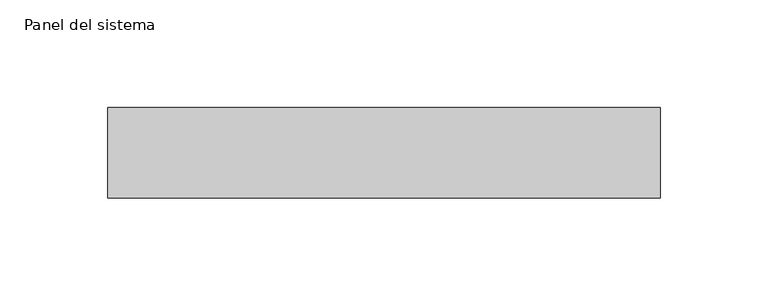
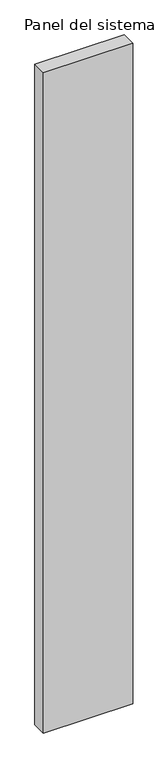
"""IFC4 building model written with IfcOpenShell, lengths in millimetres: plate geometry, Panel del sistema : HIANSA - CHAPA PERFILADA CUBIERTA - MT42 Vert."""

import ifcopenshell
import ifcopenshell.guid

model = None  # the IFC model being written
_history = None  # IfcOwnerHistory: only IFC2X3 demands one
_inside = {}  # id of a spatial element -> (the spatial element, [elements in it])
_under = {}  # id of a project, library or spatial element -> (it, [spatial elements below it])
_declared = {}  # id of a project -> (the project, [libraries it declares])
_typed = {}  # id of a type object -> (the type object, [elements of that type])
_made_of = {}  # id of a material, layer set ... -> (it, [elements and type objects made of it])


def new_model(schema):
    """Start an empty IFC model of exactly this schema.

    Asked for "IFC4X3", IfcOpenShell would pick the latest addendum, in which some entities
    have other attributes; the version numbers below select the first issue.
    IFC2X3 requires an IfcOwnerHistory on every rooted entity: one is made here for all.
    """
    global model, _history
    if schema == "IFC4X3":
        model = ifcopenshell.file(schema_version=(4, 3, 0, 0))
    else:
        model = ifcopenshell.file(schema=schema)
    _inside.clear()
    _under.clear()
    _declared.clear()
    _typed.clear()
    _made_of.clear()
    _history = None
    if model.schema == "IFC2X3":
        org = make("IfcOrganization", Name="unknown")
        user = make(
            "IfcPersonAndOrganization",
            ThePerson=make("IfcPerson", FamilyName="unknown"),
            TheOrganization=org,
        )
        app = make(
            "IfcApplication",
            ApplicationDeveloper=org,
            Version="unknown",
            ApplicationFullName="unknown",
            ApplicationIdentifier="unknown",
        )
        _history = make(
            "IfcOwnerHistory",
            OwningUser=user,
            OwningApplication=app,
            ChangeAction="ADDED",
            CreationDate=0,
        )
    return model


def make(cls, **values):
    """One entity of the class cls with the attributes given. An attribute that is None is left unset."""
    return model.create_entity(
        cls, **{name: value for name, value in values.items() if value is not None}
    )


def rooted(cls, **values):
    """An entity with a GlobalId (a new one), such as an element, a storey or a relation."""
    return make(cls, GlobalId=ifcopenshell.guid.new(), OwnerHistory=_history, **values)


def si_unit(unit_type, name, prefix=None):
    """IfcSIUnit, for example si_unit("LENGTHUNIT", "METRE", prefix="MILLI")."""
    return make("IfcSIUnit", UnitType=unit_type, Prefix=prefix, Name=name)


def assignment(units):
    """IfcUnitAssignment: the units of a project."""
    return None if units is None else make("IfcUnitAssignment", Units=units)


def point(xyz):
    """IfcCartesianPoint."""
    return None if xyz is None else make("IfcCartesianPoint", Coordinates=xyz)


def direction(xyz):
    """IfcDirection."""
    return None if xyz is None else make("IfcDirection", DirectionRatios=xyz)


def frame(location, z_axis=None, x_axis=None):
    """IfcAxis2Placement3D, a coordinate frame: its origin and axes. An axis left out is left unset."""
    return make(
        "IfcAxis2Placement3D",
        Location=point(location),
        Axis=direction(z_axis),
        RefDirection=direction(x_axis),
    )


def origin():
    """The frame at (0, 0, 0) with its axes left unset."""
    return frame((0.0, 0.0, 0.0))


def origin_with_axes():
    """The frame at (0, 0, 0) with the z axis (0, 0, 1) and the x axis (1, 0, 0) written out."""
    return frame((0.0, 0.0, 0.0), z_axis=(0.0, 0.0, 1.0), x_axis=(1.0, 0.0, 0.0))


def place(relative_to, where):
    """IfcLocalPlacement: puts the frame where relative to a parent placement (None: the world)."""
    return make(
        "IfcLocalPlacement", PlacementRelTo=relative_to, RelativePlacement=where
    )


def context(
    kind, dimensions, precision=None, world=None, true_north=None, identifier=None
):
    """IfcGeometricRepresentationContext, for example the 3D "Model" context."""
    return make(
        "IfcGeometricRepresentationContext",
        ContextIdentifier=identifier,
        ContextType=kind,
        CoordinateSpaceDimension=dimensions,
        Precision=precision,
        WorldCoordinateSystem=world,
        TrueNorth=true_north,
    )


def project(units=None, contexts=None):
    """IfcProject with its units and contexts."""
    return rooted(
        "IfcProject",
        Name="project",
        RepresentationContexts=contexts,
        UnitsInContext=assignment(units),
    )


def spatial(cls, under=None, at=None, **own):
    """A site, building, storey or space (cls), placed at a placement, below another one or the project."""
    s = rooted(cls, ObjectPlacement=at, **own)
    if under is not None:
        _under.setdefault(under.id(), (under, []))[1].append(s)
    return s


def polyline(points):
    """IfcPolyline through the points."""
    return make("IfcPolyline", Points=[point(p) for p in points])


def outline(outer, holes=None, kind="AREA"):
    """IfcArbitraryClosedProfileDef: a profile drawn as a closed curve; with holes, ...WithVoids."""
    if holes is None:
        return make("IfcArbitraryClosedProfileDef", ProfileType=kind, OuterCurve=outer)
    return make(
        "IfcArbitraryProfileDefWithVoids",
        ProfileType=kind,
        OuterCurve=outer,
        InnerCurves=holes,
    )


def extrude(swept, where, along, depth):
    """IfcExtrudedAreaSolid: the profile swept, set in the frame where, extruded along a direction by depth."""
    return make(
        "IfcExtrudedAreaSolid",
        SweptArea=swept,
        Position=where,
        ExtrudedDirection=direction(along),
        Depth=depth,
    )


def shape(context_of_items, identifier, shape_type, items):
    """IfcShapeRepresentation: the items that make up one representation, for example the "Body"."""
    return make(
        "IfcShapeRepresentation",
        ContextOfItems=context_of_items,
        RepresentationIdentifier=identifier,
        RepresentationType=shape_type,
        Items=items,
    )


def source(mapping_origin, context_of_items, identifier, shape_type, items):
    """IfcRepresentationMap: a shape defined once, which mapped items show again and again."""
    return make(
        "IfcRepresentationMap",
        MappingOrigin=mapping_origin,
        MappedRepresentation=shape(context_of_items, identifier, shape_type, items),
    )


def transform(
    local_origin,
    x_axis=None,
    y_axis=None,
    z_axis=None,
    scale=None,
    scale2=None,
    scale3=None,
    uniform=True,
):
    """IfcCartesianTransformationOperator3D, or its non-uniform kind. x_axis, y_axis, z_axis: its Axis1, 2, 3."""
    if uniform:
        return make(
            "IfcCartesianTransformationOperator3D",
            Axis1=direction(x_axis),
            Axis2=direction(y_axis),
            LocalOrigin=point(local_origin),
            Scale=scale,
            Axis3=direction(z_axis),
        )
    return make(
        "IfcCartesianTransformationOperator3DnonUniform",
        Axis1=direction(x_axis),
        Axis2=direction(y_axis),
        LocalOrigin=point(local_origin),
        Scale=scale,
        Axis3=direction(z_axis),
        Scale2=scale2,
        Scale3=scale3,
    )


def mapped(mapping_source, mapping_target):
    """IfcMappedItem: shows the shape of a source again, moved by a transform."""
    return make(
        "IfcMappedItem", MappingSource=mapping_source, MappingTarget=mapping_target
    )


def made_of(thing, what):
    """Note that an element or type object is made of a material, layer set ...; save() writes the relation."""
    if what is not None:
        _made_of.setdefault(what.id(), (what, []))[1].append(thing)
    return thing


def element(
    cls,
    number,
    at=None,
    inside=None,
    cuts=None,
    type_object=None,
    material=None,
    context=None,
    identifier="Body",
    shape_type=None,
    held_by="IfcProductDefinitionShape",
    body=None,
    shapes=None,
    **own,
):
    """One element of the class cls, such as IfcWall. Its Tag is "e" and its number.

    at: its placement. inside: the storey or other place that contains it. cuts: it is an
    opening in that element (IfcRelVoidsElement). A single representation is given by context,
    identifier, shape_type and body (its items); several are given by shapes. held_by: the class
    of the entity that holds the representations. save() writes the other relations.
    """
    e = rooted(cls, Tag="e%d" % number, ObjectPlacement=at, **own)
    if body is not None:
        shapes = [shape(context, identifier, shape_type, body)]
    if shapes is not None:
        e.Representation = make(held_by, Representations=shapes)
    if inside is not None:
        _inside.setdefault(inside.id(), (inside, []))[1].append(e)
    if cuts is not None:
        rooted(
            "IfcRelVoidsElement", RelatingBuildingElement=cuts, RelatedOpeningElement=e
        )
    if type_object is not None:
        _typed.setdefault(type_object.id(), (type_object, []))[1].append(e)
    return made_of(e, material)


def aggregate(whole, parts):
    """IfcRelAggregates: a whole, such as a stair, and the parts it consists of."""
    return rooted("IfcRelAggregates", RelatingObject=whole, RelatedObjects=parts)


def save(model, path):
    """Write the relations noted so far, then the file.

    IfcRelAggregates (storeys below a building ...), IfcRelContainedInSpatialStructure (elements
    in a storey), IfcRelDefinesByType, IfcRelAssociatesMaterial and IfcRelDeclares: one each for
    every whole, place, type object, material and project.
    """
    for whole, parts in _under.values():
        aggregate(whole, parts)
    for where, things in _inside.values():
        rooted(
            "IfcRelContainedInSpatialStructure",
            RelatedElements=things,
            RelatingStructure=where,
        )
    for kind, things in _typed.values():
        rooted("IfcRelDefinesByType", RelatedObjects=things, RelatingType=kind)
    for what, things in _made_of.values():
        rooted("IfcRelAssociatesMaterial", RelatedObjects=things, RelatingMaterial=what)
    for by, libraries in _declared.values():
        rooted("IfcRelDeclares", RelatingContext=by, RelatedDefinitions=libraries)
    model.write(path)


def panel_del_sistema_ebc15fb2(model_context):
    return source(origin(), model_context, "Body", "SweptSolid", [
        extrude(outline(polyline([(127.9999998, -42.0), (-127.9999998, -42.0), (-127.9999998, 0.0), (127.9999998, 0.0), (127.9999998, -42.0)])), origin_with_axes(), (0.0, 0.0, 1.0), 2000.0),
    ])


if __name__ == "__main__":
    model = new_model("IFC4")
    model_context = context("Model", 3, world=origin())
    ifc_project = project(units=[si_unit("LENGTHUNIT", "METRE", prefix="MILLI")], contexts=[model_context])
    site = spatial("IfcSite", under=ifc_project)
    building = spatial("IfcBuilding", under=site)
    placement = place(None, origin())
    panel_del_sistema_shape = panel_del_sistema_ebc15fb2(model_context)
    element("IfcPlate", 1, ObjectType="Panel del sistema : HIANSA - CHAPA PERFILADA CUBIERTA - MT42 Vert", at=placement, inside=building, context=model_context, shape_type="MappedRepresentation", body=[
        mapped(panel_del_sistema_shape, transform((0.0, 0.0, 0.0), x_axis=(1.0, 0.0, 0.0), y_axis=(0.0, 1.0, 0.0), z_axis=(0.0, 0.0, 1.0))),
    ])
    save(model, "model.ifc")
